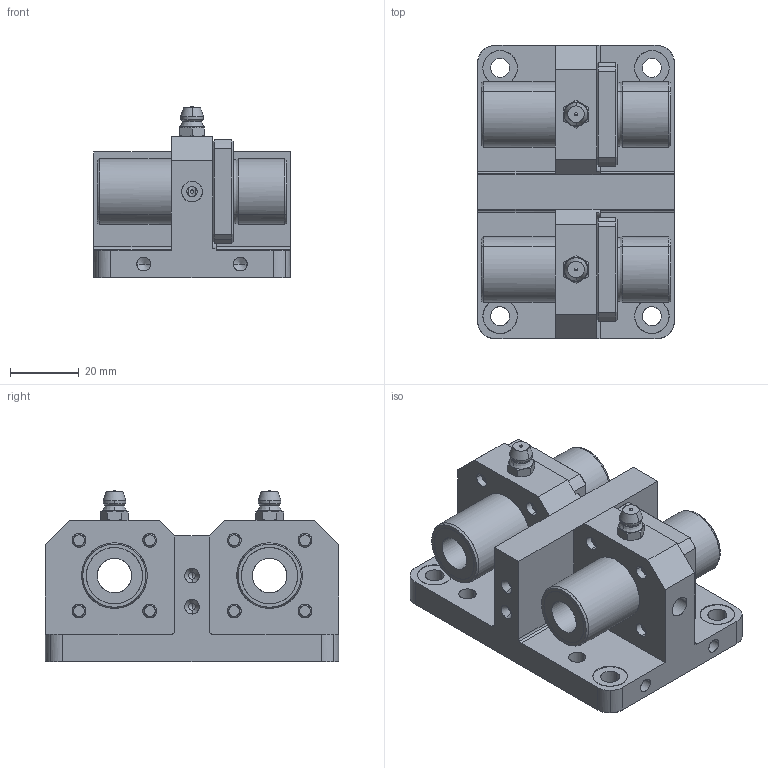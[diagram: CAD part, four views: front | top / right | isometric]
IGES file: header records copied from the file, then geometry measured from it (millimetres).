
Global section: file name: No Iges File Name specified; native system: AutoDesk Inventor R10; preprocessor: AutoDesk Inventor Iges Exporter R10; author: No Author specified; organization: No Organization specified; date: 20101227.093041; units: millimetre
Bounding box: 57 x 85 x 49.8 mm (x, y, z)
Surface area: 41266 mm2 (no closed solid volume)
Topology: 0 solids, 0 shells, 552 faces, 3586 edges, 3544 vertices
Faces by surface type: bspline 552
